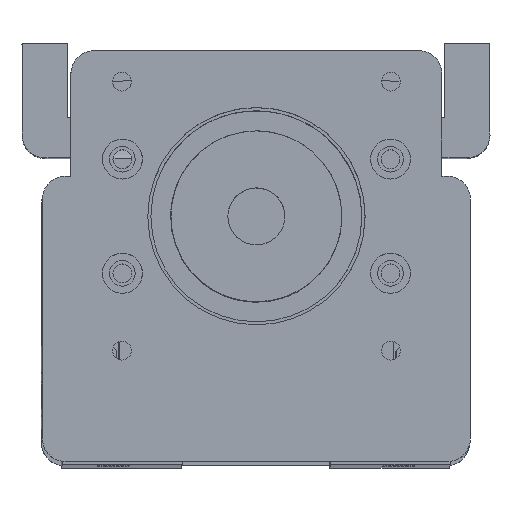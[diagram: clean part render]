
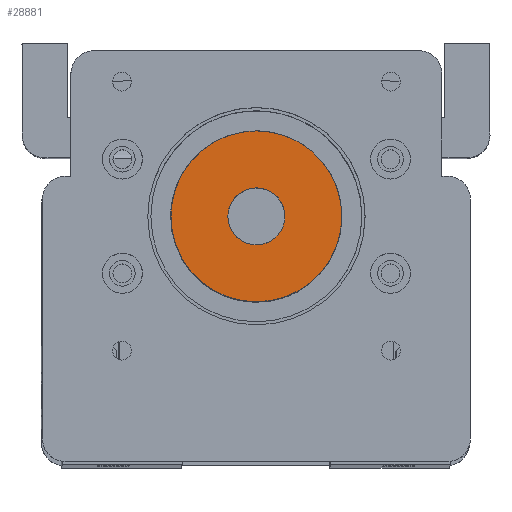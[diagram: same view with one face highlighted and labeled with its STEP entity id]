
A CAD part, top view. The second image highlights one B-rep face of the part: STEP entity #28881.
In plain terms, the highlighted planar face has unit normal (0, 0, 1).
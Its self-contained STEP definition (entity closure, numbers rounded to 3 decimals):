
#3079 = DIRECTION ( 'NONE',  ( 1., 0., 0. ) ) ;
#3629 = FACE_OUTER_BOUND ( 'NONE', #5112, .T. ) ;
#5112 = EDGE_LOOP ( 'NONE', ( #37936, #33417 ) ) ;
#6327 = VERTEX_POINT ( 'NONE', #30829 ) ;
#6467 = AXIS2_PLACEMENT_3D ( 'NONE', #30956, #7049, #34941 ) ;
#7049 = DIRECTION ( 'NONE',  ( 0., 0., 1. ) ) ;
#8069 = CARTESIAN_POINT ( 'NONE',  ( -6.16, 0., 40.753 ) ) ;
#10303 = EDGE_CURVE ( 'NONE', #34622, #30126, #12606, .T. ) ;
#11190 = AXIS2_PLACEMENT_3D ( 'NONE', #8069, #40000, #16084 ) ;
#12087 = PLANE ( 'NONE',  #11190 ) ;
#12371 = EDGE_CURVE ( 'NONE', #19560, #6327, #50568, .T. ) ;
#12606 = CIRCLE ( 'NONE', #17533, 5.003 ) ;
#14695 = EDGE_CURVE ( 'NONE', #6327, #19560, #32266, .T. ) ;
#15296 = EDGE_CURVE ( 'NONE', #30126, #34622, #35947, .T. ) ;
#15577 = ORIENTED_EDGE ( 'NONE', *, *, #15296, .F. ) ;
#16084 = DIRECTION ( 'NONE',  ( 1., 0., 0. ) ) ;
#17533 = AXIS2_PLACEMENT_3D ( 'NONE', #19450, #47430, #23477 ) ;
#19373 = CARTESIAN_POINT ( 'NONE',  ( -6.16, 0., 40.753 ) ) ;
#19450 = CARTESIAN_POINT ( 'NONE',  ( -6.16, 0., 40.753 ) ) ;
#19560 = VERTEX_POINT ( 'NONE', #24093 ) ;
#21837 = AXIS2_PLACEMENT_3D ( 'NONE', #50959, #26998, #3079 ) ;
#23401 = DIRECTION ( 'NONE',  ( 1., 0., 0. ) ) ;
#23477 = DIRECTION ( 'NONE',  ( 1., 0., 0. ) ) ;
#24002 = CARTESIAN_POINT ( 'NONE',  ( -11.163, 0., 40.753 ) ) ;
#24093 = CARTESIAN_POINT ( 'NONE',  ( -21.138, 0., 40.753 ) ) ;
#25503 = ORIENTED_EDGE ( 'NONE', *, *, #10303, .F. ) ;
#26998 = DIRECTION ( 'NONE',  ( 0., 0., 1. ) ) ;
#28881 = ADVANCED_FACE ( 'NONE', ( #3629, #47394 ), #12087, .T. ) ;
#30126 = VERTEX_POINT ( 'NONE', #24002 ) ;
#30829 = CARTESIAN_POINT ( 'NONE',  ( 8.817, 0., 40.753 ) ) ;
#30956 = CARTESIAN_POINT ( 'NONE',  ( -6.16, 0., 40.753 ) ) ;
#31261 = EDGE_LOOP ( 'NONE', ( #15577, #25503 ) ) ;
#32266 = CIRCLE ( 'NONE', #21837, 14.978 ) ;
#32362 = CARTESIAN_POINT ( 'NONE',  ( -1.157, 0., 40.753 ) ) ;
#33417 = ORIENTED_EDGE ( 'NONE', *, *, #14695, .T. ) ;
#34622 = VERTEX_POINT ( 'NONE', #32362 ) ;
#34941 = DIRECTION ( 'NONE',  ( 1., 0., 0. ) ) ;
#35947 = CIRCLE ( 'NONE', #6467, 5.003 ) ;
#37936 = ORIENTED_EDGE ( 'NONE', *, *, #12371, .T. ) ;
#40000 = DIRECTION ( 'NONE',  ( 0., 0., 1. ) ) ;
#45902 = AXIS2_PLACEMENT_3D ( 'NONE', #19373, #47357, #23401 ) ;
#47357 = DIRECTION ( 'NONE',  ( 0., 0., 1. ) ) ;
#47394 = FACE_BOUND ( 'NONE', #31261, .T. ) ;
#47430 = DIRECTION ( 'NONE',  ( 0., 0., 1. ) ) ;
#50568 = CIRCLE ( 'NONE', #45902, 14.978 ) ;
#50959 = CARTESIAN_POINT ( 'NONE',  ( -6.16, 0., 40.753 ) ) ;
